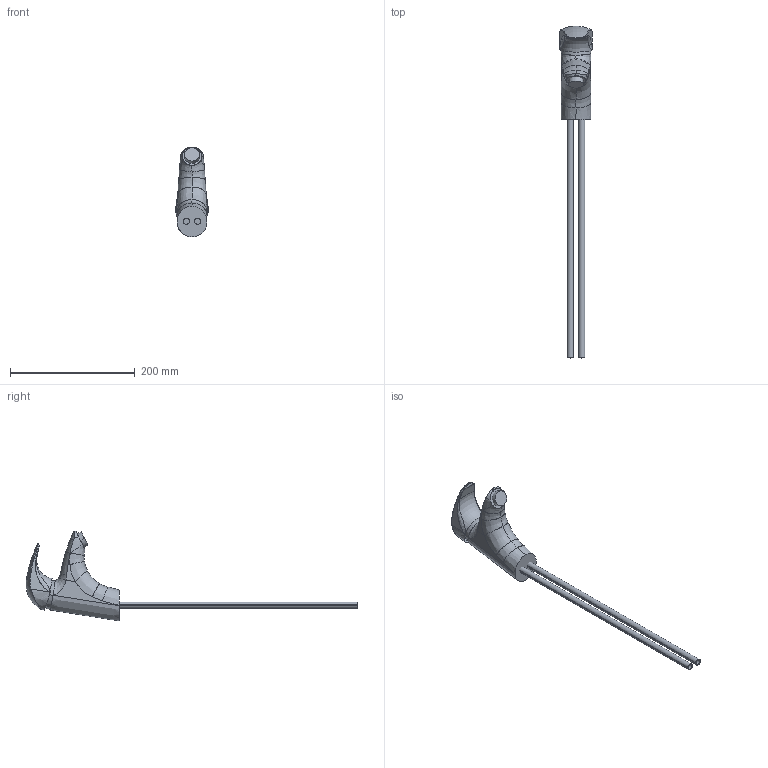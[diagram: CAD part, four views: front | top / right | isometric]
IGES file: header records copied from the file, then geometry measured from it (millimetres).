
Start section:  PTC IGES file: 10021_web.igs
Global section: file name: 10021_web.igs; native system: Creo Parametric by PTC Inc.; preprocessor: 2017380; author: jaj; organization: Unknown; date: 20181005.095357; units: millimetre
Bounding box: 52 x 532.17 x 144.07 mm (x, y, z)
Surface area: 96472.6 mm2 (no closed solid volume)
Topology: 0 solids, 0 shells, 91 faces, 530 edges, 584 vertices
Faces by surface type: bspline 62, revolution 25, extrusion 4
